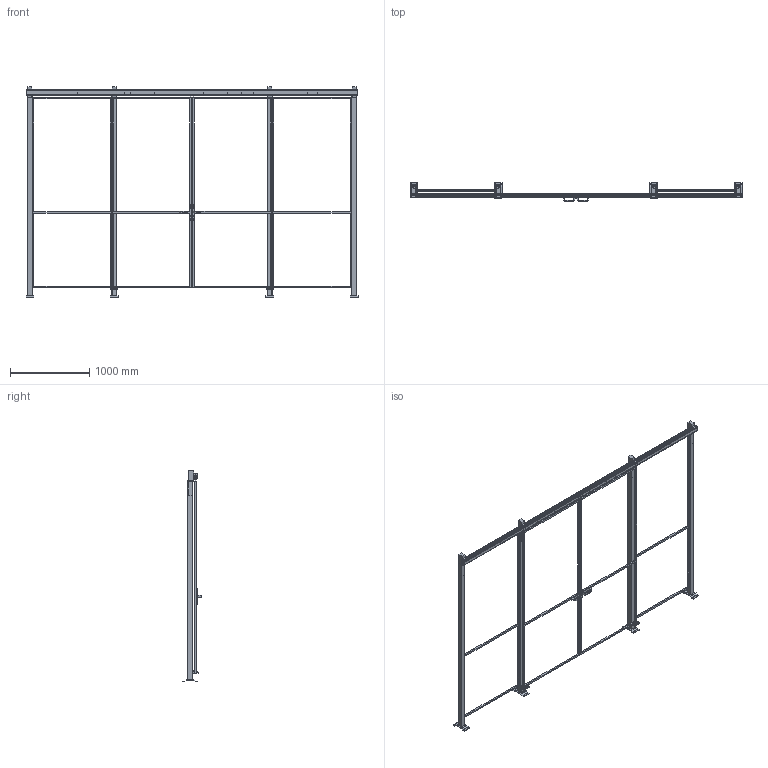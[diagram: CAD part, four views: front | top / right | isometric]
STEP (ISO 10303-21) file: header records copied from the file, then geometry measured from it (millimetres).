
FILE_DESCRIPTION(/* description */ (''),/* implementation_level */ '2;1');
FILE_NAME(/* name */ 'C:\SafeGuarding\ELABORATI\HOR§VED_2025-04-01-10-35-34.stp',/* time_stamp */ '2025-04-01T10:35:40+02:00',/* author */ ('admin'),/* organization */ (''),/* preprocessor_version */ 'ST-DEVELOPER v18.1',/* originating_system */ 'AutoCAD Mechanical',/* authorisation */ '');
FILE_SCHEMA (('AUTOMOTIVE_DESIGN { 1 0 10303 214 3 1 1 }'));
Length unit declared in the file: millimetre
Products named in the file (3): Product; VFPA.REPE2010002400; P_VFMA.V260SDU.2520
Assembly tree (8 placements, depth 2):
  Product
    VFPA.REPE2010002400  x4
    P_VFMA.V260SDU.2520  x4
Bounding box: 4179.99 x 235.91 x 2654 mm (x, y, z)
Volume: 64861952.6 mm3; surface area: 9597551.7 mm2
Topology: 42 solids, 64 shells, 630 faces, 2196 edges, 2132 vertices
Faces by surface type: plane 574, cylinder 56
Full cylindrical faces by diameter (mm): 11 x16, 12 x4, 14 x4, 15 x8, 40 x8
Entity records: 17507 total; most frequent: CARTESIAN_POINT 3647, ORIENTED_EDGE 2676, DIRECTION 2608, EDGE_CURVE 1436, LINE 1270, VECTOR 1270, VERTEX_POINT 1040, AXIS2_PLACEMENT_3D 669
